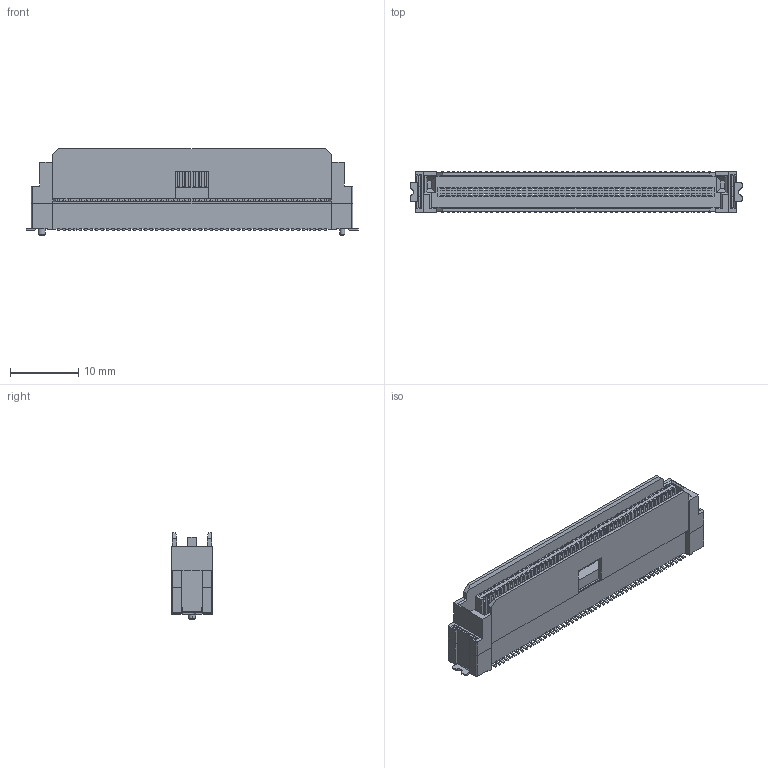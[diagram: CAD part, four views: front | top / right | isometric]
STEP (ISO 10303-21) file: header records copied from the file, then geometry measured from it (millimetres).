
FILE_DESCRIPTION(('CATIA V5 STEP Exchange'),'2;1');
FILE_NAME('F:\黄富鸿\板对板\PBB08D\公座\H12\HC-PBB08D-1-100-M-H12-XX-R-P-06 (BTB0.8 单槽 D型公座 立贴 带柱 编带)-HCTL.stp','2026-01-31T02:39:27+00:00',('none'),('none'),'CATIA Version 5 Release 20 GA (IN-10)','CATIA V5 STEP AP203','none');
FILE_SCHEMA(('CONFIG_CONTROL_DESIGN'));
Products named in the file (1): Part1
Bounding box: 48.8 x 6 x 12.75 mm (x, y, z)
Volume: 1494.8 mm3; surface area: 6375.2 mm2
Topology: 104 solids, 104 shells, 6653 faces, 20190 edges, 13444 vertices
Faces by surface type: plane 4409, cylinder 2240, cone 4
Entity records: 196251 total; most frequent: ORIENTED_EDGE 40380, CARTESIAN_POINT 35195, DIRECTION 23214, EDGE_CURVE 20190, VECTOR 15674, LINE 15674, VERTEX_POINT 13444, EDGE_LOOP 6758
